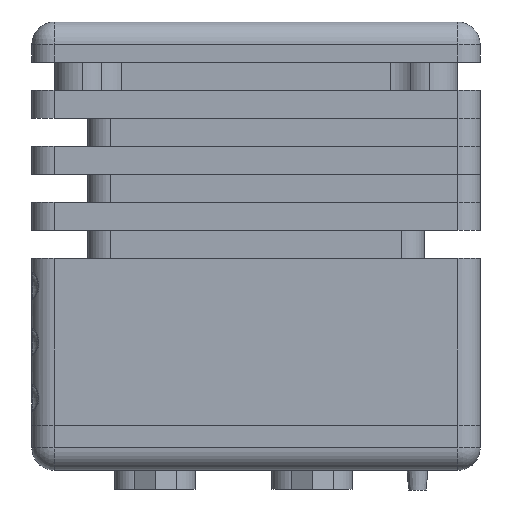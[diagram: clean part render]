
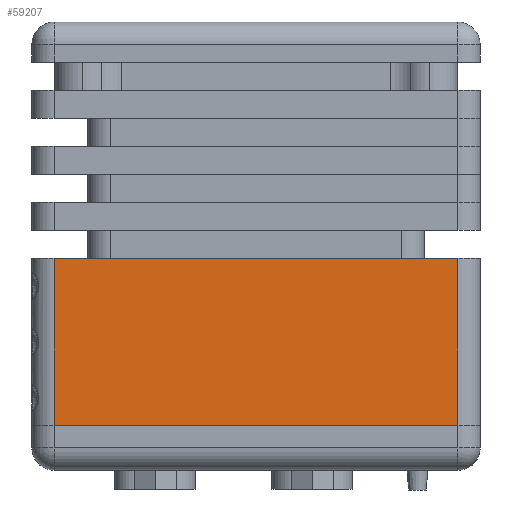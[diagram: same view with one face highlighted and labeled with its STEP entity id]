
A CAD part, left-side view. The second image highlights one B-rep face of the part: STEP entity #59207.
In plain terms, the highlighted planar face has unit normal (-1, 0, 0).
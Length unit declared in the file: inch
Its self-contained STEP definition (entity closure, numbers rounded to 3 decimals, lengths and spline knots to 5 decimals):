
#2718 = EDGE_LOOP ( 'NONE', ( #99494, #6405, #123178, #30684 ) ) ;
#6361 = CARTESIAN_POINT ( 'NONE',  ( -1., 0.9, -2. ) ) ;
#6405 = ORIENTED_EDGE ( 'NONE', *, *, #141298, .T. ) ;
#7096 = VERTEX_POINT ( 'NONE', #55387 ) ;
#7593 = EDGE_CURVE ( 'NONE', #7096, #93489, #139459, .T. ) ;
#14255 = VECTOR ( 'NONE', #103227, 39.37008 ) ;
#21711 = CARTESIAN_POINT ( 'NONE',  ( -1., 0.9, -0.875 ) ) ;
#22882 = DIRECTION ( 'NONE',  ( 0., -1., 0. ) ) ;
#30684 = ORIENTED_EDGE ( 'NONE', *, *, #7593, .T. ) ;
#33178 = EDGE_CURVE ( 'NONE', #114317, #7096, #119460, .T. ) ;
#45162 = LINE ( 'NONE', #6361, #129297 ) ;
#49031 = CARTESIAN_POINT ( 'NONE',  ( -1., 1., -1.62 ) ) ;
#53089 = DIRECTION ( 'NONE',  ( 0., -1., 0. ) ) ;
#55387 = CARTESIAN_POINT ( 'NONE',  ( -1., -0.9, -0.875 ) ) ;
#59207 = ADVANCED_FACE ( 'NONE', ( #121734 ), #81433, .F. ) ;
#71551 = DIRECTION ( 'NONE',  ( 1., 0., 0. ) ) ;
#71780 = CARTESIAN_POINT ( 'NONE',  ( -1., -0.9, -1.62 ) ) ;
#77122 = AXIS2_PLACEMENT_3D ( 'NONE', #82243, #71551, #22882 ) ;
#81433 = PLANE ( 'NONE',  #77122 ) ;
#82243 = CARTESIAN_POINT ( 'NONE',  ( -1., 1., -2. ) ) ;
#91774 = CARTESIAN_POINT ( 'NONE',  ( -1., 0.9, -1.62 ) ) ;
#93489 = VERTEX_POINT ( 'NONE', #21711 ) ;
#99494 = ORIENTED_EDGE ( 'NONE', *, *, #130242, .T. ) ;
#103227 = DIRECTION ( 'NONE',  ( 0., 1., 0. ) ) ;
#109152 = VECTOR ( 'NONE', #53089, 39.37008 ) ;
#110003 = LINE ( 'NONE', #49031, #109152 ) ;
#114317 = VERTEX_POINT ( 'NONE', #71780 ) ;
#119460 = LINE ( 'NONE', #143411, #144088 ) ;
#121734 = FACE_OUTER_BOUND ( 'NONE', #2718, .T. ) ;
#123178 = ORIENTED_EDGE ( 'NONE', *, *, #33178, .T. ) ;
#127063 = CARTESIAN_POINT ( 'NONE',  ( -1., -1., -0.875 ) ) ;
#129297 = VECTOR ( 'NONE', #134066, 39.37008 ) ;
#130242 = EDGE_CURVE ( 'NONE', #93489, #143386, #45162, .T. ) ;
#134066 = DIRECTION ( 'NONE',  ( 0., 0., -1. ) ) ;
#139459 = LINE ( 'NONE', #127063, #14255 ) ;
#141298 = EDGE_CURVE ( 'NONE', #143386, #114317, #110003, .T. ) ;
#143386 = VERTEX_POINT ( 'NONE', #91774 ) ;
#143411 = CARTESIAN_POINT ( 'NONE',  ( -1., -0.9, -2. ) ) ;
#144088 = VECTOR ( 'NONE', #145808, 39.37008 ) ;
#145808 = DIRECTION ( 'NONE',  ( 0., 0., 1. ) ) ;
